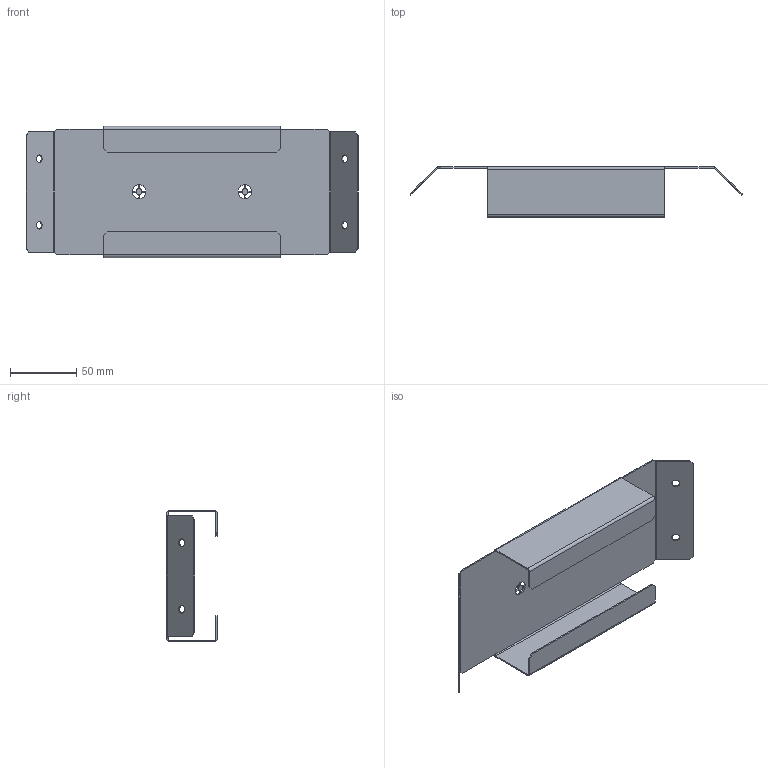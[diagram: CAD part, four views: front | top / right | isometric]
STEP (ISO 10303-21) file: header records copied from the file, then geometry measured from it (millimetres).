
FILE_DESCRIPTION (( 'STEP AP203' ), '1' );
FILE_NAME ('MA1.600.030620.20.01 Ïàíåëü öîêîëÿ Ø_Ã = 300 ìì, Â = 100 ìì.STEP', '2024-02-13T11:34:56', ( '' ), ( '' ), 'SwSTEP 2.0', 'SolidWorks 2021', '' );
FILE_SCHEMA (( 'CONFIG_CONTROL_DESIGN' ));
Length unit declared in the file: millimetre
Products named in the file (1): MA1.600.030620.20.01 Ïàíåëü öîêîëÿ Ø_Ã = 300 ìì, Â = 100 ìì
Bounding box: 250.67 x 38 x 99 mm (x, y, z)
Volume: 39892.2 mm3; surface area: 80916 mm2
Topology: 1 solids, 1 shells, 110 faces, 276 edges, 168 vertices
Faces by surface type: plane 74, cylinder 36
Entity records: 3353 total; most frequent: DIRECTION 570, CARTESIAN_POINT 555, ORIENTED_EDGE 552, EDGE_CURVE 276, LINE 204, VECTOR 204, AXIS2_PLACEMENT_3D 183, VERTEX_POINT 168
